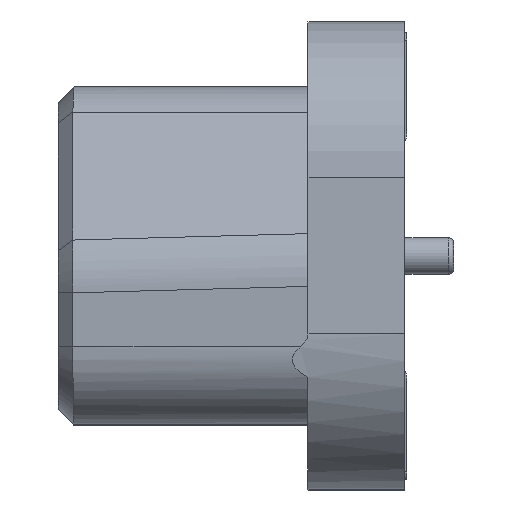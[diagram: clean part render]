
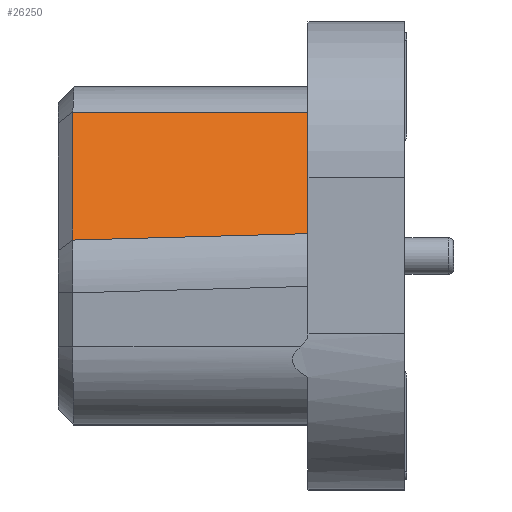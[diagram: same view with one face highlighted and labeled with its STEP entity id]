
A CAD part, left-side view. The second image highlights one B-rep face of the part: STEP entity #26250.
In plain terms, the highlighted planar face has unit normal (-0.733, 0.07, 0.677).
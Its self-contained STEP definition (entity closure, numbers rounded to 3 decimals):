
#3372 = DIRECTION ( 'NONE',  ( -0.678, 0., -0.735 ) ) ;
#4680 = DIRECTION ( 'NONE',  ( 0.095, 0.996, 0. ) ) ;
#7222 = LINE ( 'NONE', #12175, #10512 ) ;
#10512 = VECTOR ( 'NONE', #44188, 1000. ) ;
#11791 = ORIENTED_EDGE ( 'NONE', *, *, #23107, .T. ) ;
#12175 = CARTESIAN_POINT ( 'NONE',  ( -12.169, 1.36, 2.765 ) ) ;
#12575 = PLANE ( 'NONE',  #42717 ) ;
#14046 = VECTOR ( 'NONE', #44093, 1000. ) ;
#16278 = VERTEX_POINT ( 'NONE', #37173 ) ;
#16285 = CARTESIAN_POINT ( 'NONE',  ( -14.321, 1.422, 0.427 ) ) ;
#22053 = ORIENTED_EDGE ( 'NONE', *, *, #48287, .F. ) ;
#22168 = CARTESIAN_POINT ( 'NONE',  ( -11.743, 5.839, 2.765 ) ) ;
#22833 = CARTESIAN_POINT ( 'NONE',  ( -11.493, 5.839, 3.036 ) ) ;
#23107 = EDGE_CURVE ( 'NONE', #50305, #26913, #28073, .T. ) ;
#24582 = CARTESIAN_POINT ( 'NONE',  ( -11.725, 1.318, 3.25 ) ) ;
#24636 = CARTESIAN_POINT ( 'NONE',  ( -11.725, 1.318, 3.25 ) ) ;
#26250 = ADVANCED_FACE ( 'NONE', ( #40396 ), #12575, .T. ) ;
#26913 = VERTEX_POINT ( 'NONE', #34322 ) ;
#28073 = LINE ( 'NONE', #16285, #14046 ) ;
#28191 = VECTOR ( 'NONE', #3372, 1000. ) ;
#29715 = EDGE_CURVE ( 'NONE', #16278, #48401, #7222, .T. ) ;
#29749 = EDGE_LOOP ( 'NONE', ( #38778, #31575, #11791, #22053 ) ) ;
#31575 = ORIENTED_EDGE ( 'NONE', *, *, #49270, .T. ) ;
#32705 = DIRECTION ( 'NONE',  ( -0.678, 0., -0.735 ) ) ;
#34322 = CARTESIAN_POINT ( 'NONE',  ( -14.328, 1.318, 0.43 ) ) ;
#37173 = CARTESIAN_POINT ( 'NONE',  ( -12.173, 1.318, 2.765 ) ) ;
#37338 = VECTOR ( 'NONE', #32705, 1000. ) ;
#38778 = ORIENTED_EDGE ( 'NONE', *, *, #29715, .T. ) ;
#39348 = LINE ( 'NONE', #22833, #28191 ) ;
#40396 = FACE_OUTER_BOUND ( 'NONE', #29749, .T. ) ;
#40582 = LINE ( 'NONE', #24582, #37338 ) ;
#40636 = DIRECTION ( 'NONE',  ( -0.733, 0.07, 0.677 ) ) ;
#42347 = CARTESIAN_POINT ( 'NONE',  ( -14.012, 5.839, 0.306 ) ) ;
#42717 = AXIS2_PLACEMENT_3D ( 'NONE', #24636, #40636, #4680 ) ;
#44093 = DIRECTION ( 'NONE',  ( -0.07, -0.997, 0.027 ) ) ;
#44188 = DIRECTION ( 'NONE',  ( 0.095, 0.996, 0. ) ) ;
#48287 = EDGE_CURVE ( 'NONE', #16278, #26913, #40582, .T. ) ;
#48401 = VERTEX_POINT ( 'NONE', #22168 ) ;
#49270 = EDGE_CURVE ( 'NONE', #48401, #50305, #39348, .T. ) ;
#50305 = VERTEX_POINT ( 'NONE', #42347 ) ;
